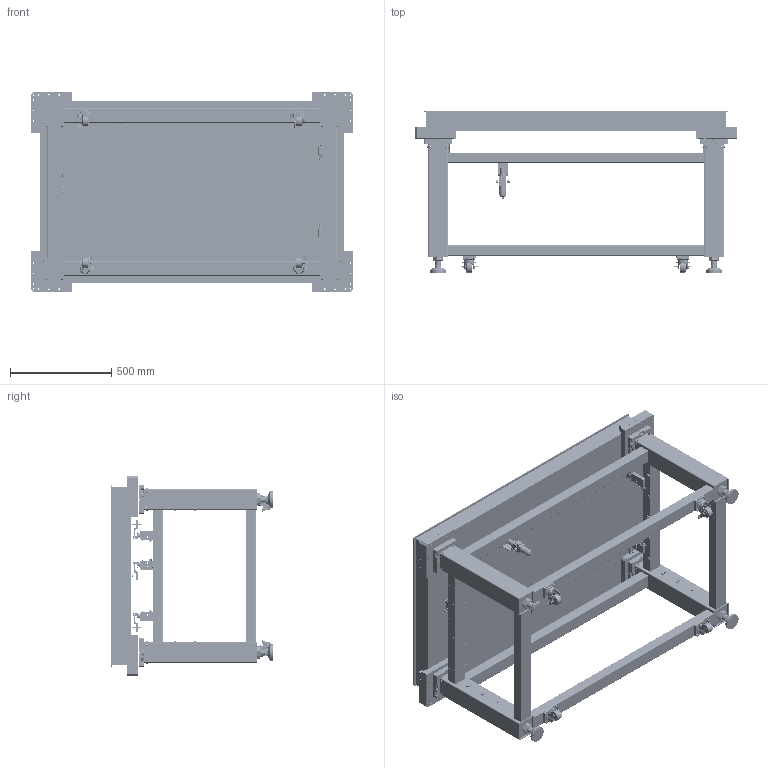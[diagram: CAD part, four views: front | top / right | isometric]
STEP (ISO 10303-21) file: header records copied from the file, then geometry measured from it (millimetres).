
FILE_DESCRIPTION (( 'STEP AP203' ), '1' );
FILE_NAME ('NAP15-09(AP203).STEP', '2022-03-09T04:29:17', ( '' ), ( '' ), 'SwSTEP 2.0', 'SolidWorks 2021', '' );
FILE_SCHEMA (( 'CONFIG_CONTROL_DESIGN' ));
Length unit declared in the file: millimetre
Products named in the file (1): NAP15-09(AP203)
Bounding box: 1589.3 x 800 x 984.5 mm (x, y, z)
Surface area: 10579872.6 mm2 (no closed solid volume)
Topology: 0 solids, 431 shells, 6158 faces, 20393 edges, 14411 vertices
Faces by surface type: cylinder 4799, plane 1153, sphere 70, cone 68, bspline 46, torus 22
Entity records: 243018 total; most frequent: CARTESIAN_POINT 48380, DIRECTION 43510, ORIENTED_EDGE 35644, EDGE_CURVE 20383, AXIS2_PLACEMENT_3D 17439, VERTEX_POINT 14411, CIRCLE 11326, EDGE_LOOP 10786
